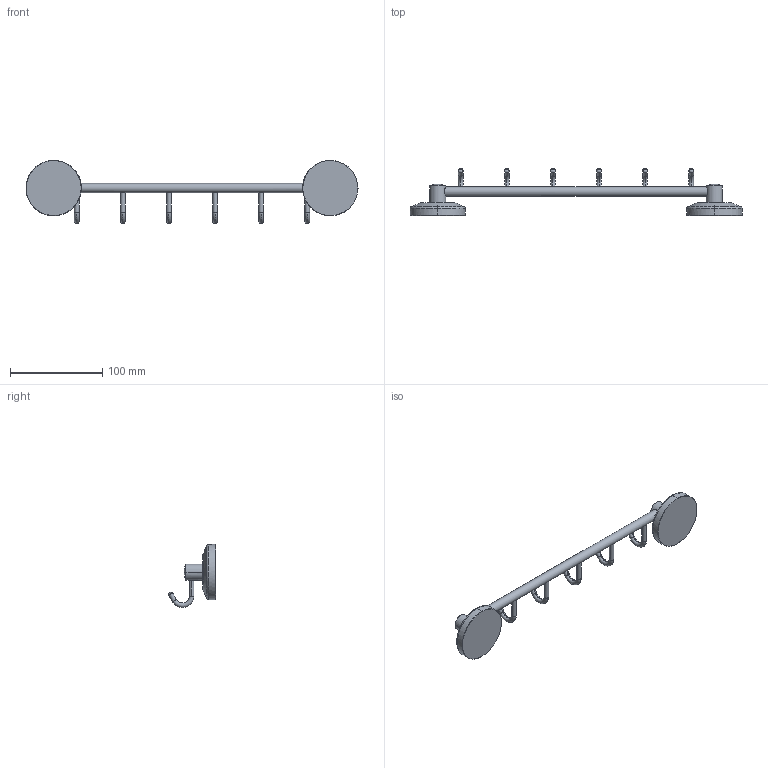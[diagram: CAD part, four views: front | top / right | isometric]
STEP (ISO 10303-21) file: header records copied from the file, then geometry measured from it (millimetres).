
FILE_DESCRIPTION(('THIS FILE CONTAINS SOME STEP INSTANCES'),'1');
FILE_NAME('sta_027.stp','2015-12-01T 7:52:33',('UNDEFINED'),('UNDEFINED'),'T-FLEX CAD STEP converter','T-FLEX CAD','');
FILE_SCHEMA(('CONFIG_CONTROL_DESIGN'));
Length unit declared in the file: metre
Products named in the file (1): 3D 鐨飹懤艜_12
Bounding box: 360 x 51.19 x 68.46 mm (x, y, z)
Volume: 107796.2 mm3; surface area: 30981.6 mm2
Topology: 1 solids, 1 shells, 114 faces, 278 edges, 164 vertices
Faces by surface type: cylinder 34, bspline 30, torus 24, cone 12, plane 10, sphere 4
Entity records: 11885 total; most frequent: CARTESIAN_POINT 9876, ORIENTED_EDGE 548, EDGE_CURVE 274, DIRECTION 246, VERTEX_POINT 164, EDGE_LOOP 116, ADVANCED_FACE 114, FACE_OUTER_BOUND 114
